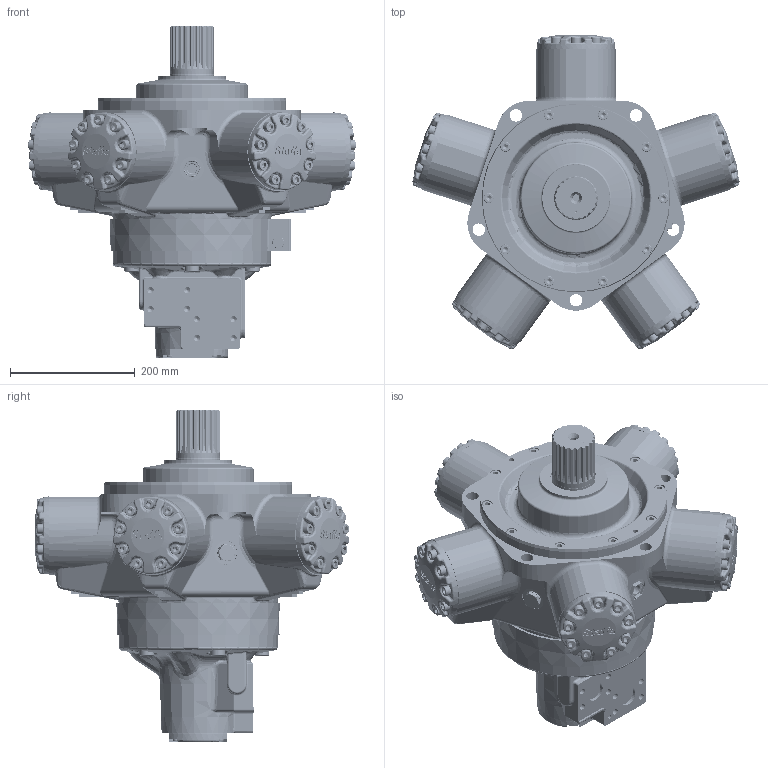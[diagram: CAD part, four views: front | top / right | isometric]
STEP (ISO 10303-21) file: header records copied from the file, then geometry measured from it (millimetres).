
FILE_DESCRIPTION(/* description */ (''),/* implementation_level */ '2;1');
FILE_NAME(/* name */ 'HMC080_Z_FM3_C_82.stp',/* time_stamp */ '2026-01-20T11:00:40Z',/* author */ ('ccallanga'),/* organization */ (''),/* preprocessor_version */ 'ST-DEVELOPER v20',/* originating_system */ 'Autodesk Inventor 2024',/* authorisation */ '');
FILE_SCHEMA (('AUTOMOTIVE_DESIGN { 1 0 10303 214 3 1 1 }'));
Products named in the file (1): 017754 HMC080 WEBSITE ASSEMBLY_Simplify_1
Bounding box: 524.48 x 502.42 x 531.21 mm (x, y, z)
Volume: 28611660.3 mm3; surface area: 865780.9 mm2
Topology: 1 solids, 1 shells, 5330 faces, 12836 edges, 7540 vertices
Faces by surface type: bspline 1784, plane 1417, cylinder 1184, torus 562, sphere 206, cone 177
Full cylindrical faces by diameter (mm): 4 x1, 4.134 x4, 5.5 x4, 6.2 x1, 8.376 x2, 9.4 x1, 10.109 x8, 11.328 x1, 11.913 x4, 12 x1, 12.7 x4, 16 x55, 16.5 x45, 16.51 x1, 17 x10, 19 x1, 20 x5, 23.825 x5, 25 x1, 25.4 x5, 26.92 x2, 31.75 x2, 38.1 x3, 68.58 x1, 69.4 x1, 69.825 x1, 73.914 x1, 88.901 x1, 107.95 x1, 177.8 x1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
Entity records: 218235 total; most frequent: CARTESIAN_POINT 107583, ORIENTED_EDGE 25230, DIRECTION 19499, EDGE_CURVE 12615, AXIS2_PLACEMENT_3D 7669, VERTEX_POINT 7540, EDGE_LOOP 5603, FACE_OUTER_BOUND 5330
